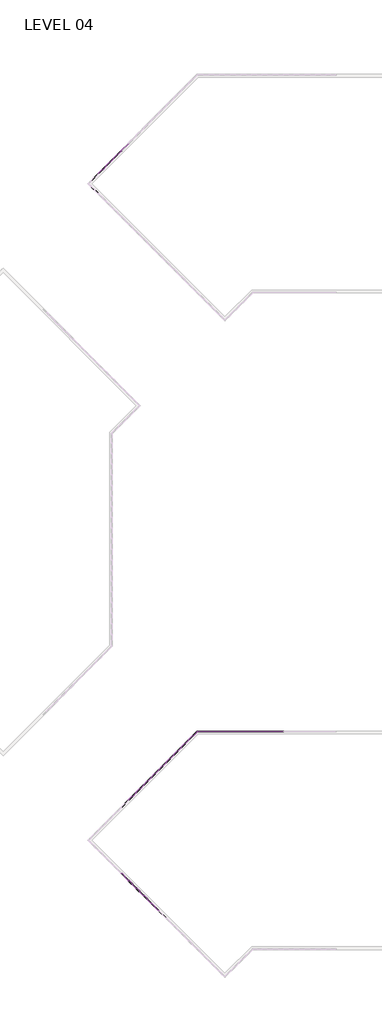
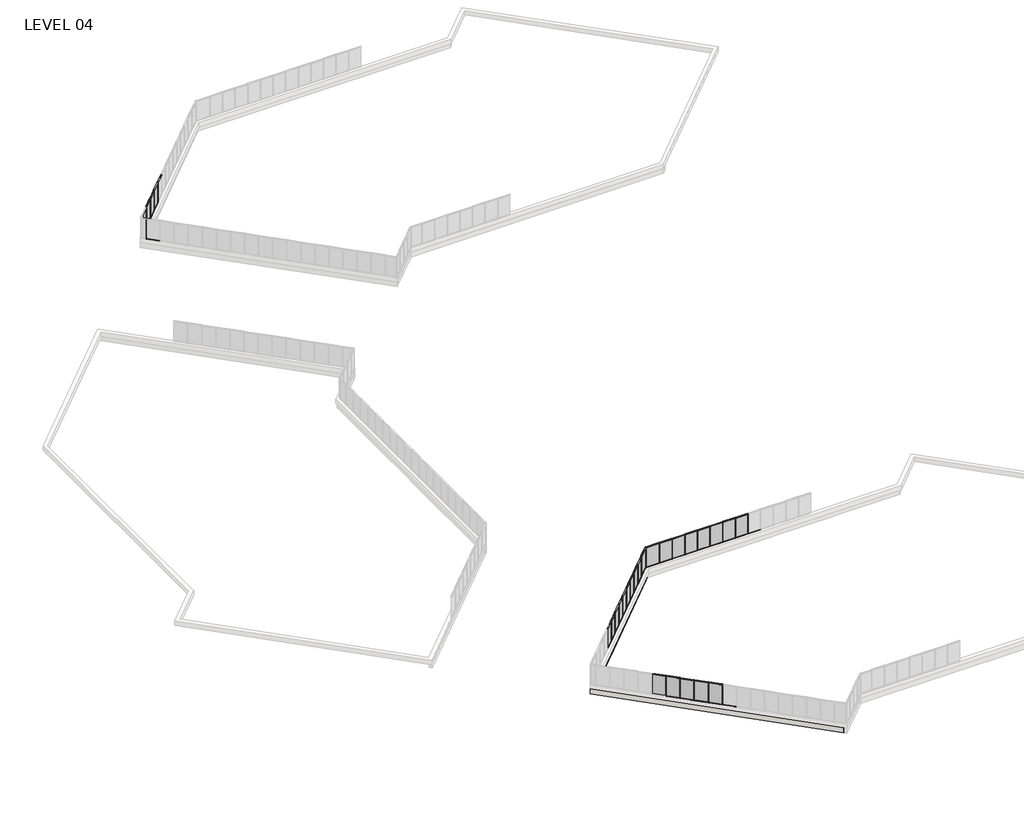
# One storey, part 7 of 17: 84 members, 27 plates, 2 walls.
"""IFC4 building model written with IfcOpenShell, lengths in millimetres."""

from ifc_helpers import new_model, si_unit, origin, place, context, project, spatial, faceted_brep, transform, mapped, element, save
from components import member_5247f267, member_e44af9ab, member_800970d4, member_1bd862b2, member_7ca0f77f, member_ed9c17d6, plate_67294edd, plate_048e4634, plate_aaac5d3d, plate_bbcbcabf, plate_e0fd5134, plate_db5d6751, plate_62af1d3c, plate_dca6a18a

model = new_model("IFC4")

# Units and contexts
model_context = context("Model", 3, world=origin())
ifc_project = project(units=[si_unit("LENGTHUNIT", "METRE", prefix="MILLI")], contexts=[model_context])

# Site, building, storey
site = spatial("IfcSite", under=ifc_project)
building = spatial("IfcBuilding", under=site)
storey = spatial("IfcBuildingStorey", under=building, Name="LEVEL 04", Elevation=12052.3)

# Members
placement = place(None, origin())
member_shape = member_5247f267(model_context)
element("IfcMember", 1, ObjectType="Rectangular Mullion : 2\" x 4.5\" rectangular", at=placement, inside=storey, context=model_context, shape_type="MappedRepresentation", body=[
    mapped(member_shape, transform((21469.35, 26080.1328721, 12052.3), x_axis=(0.0, 0.0, -1.0), y_axis=(0.0, -1.0, 0.0), z_axis=(-1.0, 0.0, 0.0))),
])
element("IfcMember", 2, ObjectType="Rectangular Mullion : 2\" x 4.5\" rectangular", at=placement, inside=storey, context=model_context, shape_type="MappedRepresentation", body=[
    mapped(member_shape, transform((22993.35, 26080.1328721, 12052.3), x_axis=(0.0, 0.0, -1.0), y_axis=(0.0, -1.0, 0.0), z_axis=(-1.0, 0.0, 0.0))),
])
element("IfcMember", 3, ObjectType="Rectangular Mullion : 2\" x 4.5\" rectangular", at=placement, inside=storey, context=model_context, shape_type="MappedRepresentation", body=[
    mapped(member_shape, transform((19945.35, 26080.1328721, 12052.3), x_axis=(0.0, 0.0, -1.0), y_axis=(0.0, -1.0, 0.0), z_axis=(-1.0, 0.0, 0.0))),
])
element("IfcMember", 4, ObjectType="Rectangular Mullion : 2\" x 4.5\" rectangular", at=placement, inside=storey, context=model_context, shape_type="MappedRepresentation", body=[
    mapped(member_shape, transform((18421.35, 26080.1328721, 12052.3), x_axis=(0.0, 0.0, -1.0), y_axis=(0.0, -1.0, 0.0), z_axis=(-1.0, 0.0, 0.0))),
])
element("IfcMember", 5, ObjectType="Rectangular Mullion : 2\" x 4.5\" rectangular", at=placement, inside=storey, context=model_context, shape_type="MappedRepresentation", body=[
    mapped(member_shape, transform((16897.35, 26080.1328721, 12052.3), x_axis=(0.0, 0.0, -1.0), y_axis=(0.0, -1.0, 0.0), z_axis=(-1.0, 0.0, 0.0))),
])
element("IfcMember", 6, ObjectType="Rectangular Mullion : 2\" x 4.5\" rectangular", at=placement, inside=storey, context=model_context, shape_type="MappedRepresentation", body=[
    mapped(member_shape, transform((15373.35, 26080.1328721, 12052.3), x_axis=(0.0, 0.0, -1.0), y_axis=(0.0, -1.0, 0.0), z_axis=(-1.0, 0.0, 0.0))),
])
element("IfcMember", 7, ObjectType="Rectangular Mullion : 2\" x 4.5\" rectangular", at=placement, inside=storey, context=model_context, shape_type="MappedRepresentation", body=[
    mapped(member_shape, transform((13849.35, 26080.1328721, 12052.3), x_axis=(0.0, 0.0, -1.0), y_axis=(0.0, -1.0, 0.0), z_axis=(-1.0, 0.0, 0.0))),
])
element("IfcMember", 8, ObjectType="Rectangular Mullion : 2\" x 4.5\" rectangular", at=placement, inside=storey, context=model_context, shape_type="MappedRepresentation", body=[
    mapped(member_shape, transform((12325.35, 26080.1328721, 12052.3), x_axis=(0.0, 0.0, -1.0), y_axis=(0.0, -1.0, 0.0), z_axis=(-1.0, 0.0, 0.0))),
])
element("IfcMember", 9, ObjectType="Rectangular Mullion : 2\" x 4.5\" rectangular", at=placement, inside=storey, context=model_context, shape_type="MappedRepresentation", body=[
    mapped(member_shape, transform((8320.1332875, 23790.0222953, 12052.3), x_axis=(0.0, 0.0, -1.0), y_axis=(-0.7071067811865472, 0.7071067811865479, 0.0), z_axis=(0.7071067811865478, 0.7071067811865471, 0.0))),
])
element("IfcMember", 10, ObjectType="Rectangular Mullion : 2\" x 4.5\" rectangular", at=placement, inside=storey, context=model_context, shape_type="MappedRepresentation", body=[
    mapped(member_shape, transform((7242.502553, 22712.3915608, 12052.3), x_axis=(0.0, 0.0, -1.0), y_axis=(-0.7071067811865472, 0.7071067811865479, 0.0), z_axis=(0.7071067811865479, 0.7071067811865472, 0.0))),
])
element("IfcMember", 11, ObjectType="Rectangular Mullion : 2\" x 4.5\" rectangular", at=placement, inside=storey, context=model_context, shape_type="MappedRepresentation", body=[
    mapped(member_shape, transform((6164.8718185, 21634.7608262, 12052.3), x_axis=(0.0, 0.0, -1.0), y_axis=(-0.7071067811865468, 0.7071067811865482, 0.0), z_axis=(0.7071067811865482, 0.7071067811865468, 0.0))),
])
element("IfcMember", 12, ObjectType="Rectangular Mullion : 2\" x 4.5\" rectangular", at=placement, inside=storey, context=model_context, shape_type="MappedRepresentation", body=[
    mapped(member_shape, transform((4009.6251512, 19479.5141589, 12052.3), x_axis=(0.0, 0.0, -1.0), y_axis=(-0.7071067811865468, 0.7071067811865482, 0.0), z_axis=(0.7071067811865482, 0.7071067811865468, 0.0))),
])
element("IfcMember", 13, ObjectType="Rectangular Mullion : 2\" x 4.5\" rectangular", at=placement, inside=storey, context=model_context, shape_type="MappedRepresentation", body=[
    mapped(member_shape, transform((2932.0092184, 18401.8982261, 12052.3), x_axis=(0.0, 0.0, -1.0), y_axis=(-0.7071067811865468, 0.7071067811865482, 0.0), z_axis=(0.7071067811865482, 0.7071067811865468, 0.0))),
])
element("IfcMember", 14, ObjectType="Rectangular Mullion : 2\" x 4.5\" rectangular", at=placement, inside=storey, context=model_context, shape_type="MappedRepresentation", body=[
    mapped(member_shape, transform((1854.3932855, 17324.2822933, 12052.3), x_axis=(0.0, 0.0, -1.0), y_axis=(-0.7071067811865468, 0.7071067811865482, 0.0), z_axis=(0.7071067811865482, 0.7071067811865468, 0.0))),
])
element("IfcMember", 15, ObjectType="Rectangular Mullion : 2\" x 4.5\" rectangular", at=placement, inside=storey, context=model_context, shape_type="MappedRepresentation", body=[
    mapped(member_shape, transform((776.7773527, 16246.6663605, 12052.3), x_axis=(0.0, 0.0, -1.0), y_axis=(-0.7071067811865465, 0.7071067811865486, 0.0), z_axis=(0.7071067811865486, 0.7071067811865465, 0.0))),
])
element("IfcMember", 16, ObjectType="Rectangular Mullion : 2\" x 4.5\" rectangular", at=placement, inside=storey, context=model_context, shape_type="MappedRepresentation", body=[
    mapped(member_shape, transform((9397.7640221, 24867.6530298, 12052.3), x_axis=(0.0, 0.0, -1.0), y_axis=(-0.7071067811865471, 0.7071067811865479, 0.0), z_axis=(0.7071067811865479, 0.7071067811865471, 0.0))),
])
element("IfcMember", 17, ObjectType="Rectangular Mullion : 2\" x 4.5\" rectangular", at=placement, inside=storey, context=model_context, shape_type="MappedRepresentation", body=[
    mapped(member_shape, transform((5087.2484848, 20557.1374926, 12052.3), x_axis=(0.0, 0.0, -1.0), y_axis=(-0.7071067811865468, 0.7071067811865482, 0.0), z_axis=(0.7071067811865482, 0.7071067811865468, 0.0))),
])
element("IfcMember", 18, ObjectType="Rectangular Mullion : 2\" x 4.5\" rectangular", at=placement, inside=storey, context=model_context, shape_type="MappedRepresentation", body=[
    mapped(member_shape, transform((812.6774444, 4705.5492921, 12052.3), x_axis=(0.0, 0.0, -1.0), y_axis=(-0.7071067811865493, -0.7071067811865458, 0.0), z_axis=(-0.7071067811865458, 0.7071067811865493, 0.0))),
])
element("IfcMember", 19, ObjectType="Rectangular Mullion : 2\" x 4.5\" rectangular", at=placement, inside=storey, context=model_context, shape_type="MappedRepresentation", body=[
    mapped(member_shape, transform((1890.2724444, 3627.9542921, 12052.3), x_axis=(0.0, 0.0, -1.0), y_axis=(-0.7071067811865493, -0.7071067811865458, 0.0), z_axis=(-0.7071067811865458, 0.7071067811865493, 0.0))),
])
element("IfcMember", 20, ObjectType="Rectangular Mullion : 2\" x 4.5\" rectangular", at=placement, inside=storey, context=model_context, shape_type="MappedRepresentation", body=[
    mapped(member_shape, transform((2967.8674444, 2550.3592921, 12052.3), x_axis=(0.0, 0.0, -1.0), y_axis=(-0.707106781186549, -0.7071067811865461, 0.0), z_axis=(-0.7071067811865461, 0.707106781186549, 0.0))),
])
element("IfcMember", 21, ObjectType="Rectangular Mullion : 2\" x 4.5\" rectangular", at=placement, inside=storey, context=model_context, shape_type="MappedRepresentation", body=[
    mapped(member_shape, transform((-3533.9094563, 105983.7989843, 12052.3), x_axis=(0.0, 0.0, -1.0), y_axis=(-0.7071067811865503, 0.7071067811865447, 0.0), z_axis=(0.7071067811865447, 0.7071067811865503, 0.0))),
])
element("IfcMember", 22, ObjectType="Rectangular Mullion : 2\" x 4.5\" rectangular", at=placement, inside=storey, context=model_context, shape_type="MappedRepresentation", body=[
    mapped(member_shape, transform((-301.0172527, 109216.6911879, 12052.3), x_axis=(0.0, 0.0, -1.0), y_axis=(-0.7071067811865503, 0.7071067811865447, 0.0), z_axis=(0.7071067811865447, 0.7071067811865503, 0.0))),
])
element("IfcMember", 23, ObjectType="Rectangular Mullion : 2\" x 4.5\" rectangular", at=placement, inside=storey, context=model_context, shape_type="MappedRepresentation", body=[
    mapped(member_shape, transform((-1378.6479872, 108139.0604533, 12052.3), x_axis=(0.0, 0.0, -1.0), y_axis=(-0.7071067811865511, 0.707106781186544, 0.0), z_axis=(0.707106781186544, 0.7071067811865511, 0.0))),
])
element("IfcMember", 24, ObjectType="Rectangular Mullion : 2\" x 4.5\" rectangular", at=placement, inside=storey, context=model_context, shape_type="MappedRepresentation", body=[
    mapped(member_shape, transform((-2456.2787218, 107061.4297188, 12052.3), x_axis=(0.0, 0.0, -1.0), y_axis=(-0.7071067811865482, 0.7071067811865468, 0.0), z_axis=(0.7071067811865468, 0.7071067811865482, 0.0))),
])
element("IfcMember", 25, ObjectType="Rectangular Mullion : 2\" x 4.5\" rectangular", at=placement, inside=storey, context=model_context, shape_type="MappedRepresentation", body=[
    mapped(member_shape, transform((-4575.4404937, 104141.486663, 12052.3), x_axis=(0.0, 0.0, -1.0), y_axis=(-0.7071067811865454, -0.7071067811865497, 0.0), z_axis=(-0.7071067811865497, 0.7071067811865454, 0.0))),
])
element("IfcMember", 26, ObjectType="Rectangular Mullion : 2\" x 4.5\" rectangular", at=placement, inside=storey, context=model_context, shape_type="MappedRepresentation", body=[
    mapped(member_shape, transform((21418.55, 26080.1328721, 14643.1), x_axis=(0.0, 0.0, 1.0), y_axis=(0.0, -1.0, 0.0), z_axis=(1.0, 0.0, 0.0))),
])
element("IfcMember", 27, ObjectType="Rectangular Mullion : 2\" x 4.5\" rectangular", at=placement, inside=storey, context=model_context, shape_type="MappedRepresentation", body=[
    mapped(member_shape, transform((22942.55, 26080.1328721, 14643.1), x_axis=(0.0, 0.0, 1.0), y_axis=(0.0, -1.0, 0.0), z_axis=(1.0, 0.0, 0.0))),
])
element("IfcMember", 28, ObjectType="Rectangular Mullion : 2\" x 4.5\" rectangular", at=placement, inside=storey, context=model_context, shape_type="MappedRepresentation", body=[
    mapped(member_shape, transform((19894.55, 26080.1328721, 14643.1), x_axis=(0.0, 0.0, 1.0), y_axis=(0.0, -1.0, 0.0), z_axis=(1.0, 0.0, 0.0))),
])
element("IfcMember", 29, ObjectType="Rectangular Mullion : 2\" x 4.5\" rectangular", at=placement, inside=storey, context=model_context, shape_type="MappedRepresentation", body=[
    mapped(member_shape, transform((18370.55, 26080.1328721, 14643.1), x_axis=(0.0, 0.0, 1.0), y_axis=(0.0, -1.0, 0.0), z_axis=(1.0, 0.0, 0.0))),
])
element("IfcMember", 30, ObjectType="Rectangular Mullion : 2\" x 4.5\" rectangular", at=placement, inside=storey, context=model_context, shape_type="MappedRepresentation", body=[
    mapped(member_shape, transform((16846.55, 26080.1328721, 14643.1), x_axis=(0.0, 0.0, 1.0), y_axis=(0.0, -1.0, 0.0), z_axis=(1.0, 0.0, 0.0))),
])
element("IfcMember", 31, ObjectType="Rectangular Mullion : 2\" x 4.5\" rectangular", at=placement, inside=storey, context=model_context, shape_type="MappedRepresentation", body=[
    mapped(member_shape, transform((15322.55, 26080.1328721, 14643.1), x_axis=(0.0, 0.0, 1.0), y_axis=(0.0, -1.0, 0.0), z_axis=(1.0, 0.0, 0.0))),
])
element("IfcMember", 32, ObjectType="Rectangular Mullion : 2\" x 4.5\" rectangular", at=placement, inside=storey, context=model_context, shape_type="MappedRepresentation", body=[
    mapped(member_shape, transform((13798.55, 26080.1328721, 14643.1), x_axis=(0.0, 0.0, 1.0), y_axis=(0.0, -1.0, 0.0), z_axis=(1.0, 0.0, 0.0))),
])
element("IfcMember", 33, ObjectType="Rectangular Mullion : 2\" x 4.5\" rectangular", at=placement, inside=storey, context=model_context, shape_type="MappedRepresentation", body=[
    mapped(member_shape, transform((8356.054312, 23825.9433198, 14643.1), x_axis=(0.0, 0.0, 1.0), y_axis=(-0.7071067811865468, 0.7071067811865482, 0.0), z_axis=(-0.7071067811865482, -0.7071067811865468, 0.0))),
])
element("IfcMember", 34, ObjectType="Rectangular Mullion : 2\" x 4.5\" rectangular", at=placement, inside=storey, context=model_context, shape_type="MappedRepresentation", body=[
    mapped(member_shape, transform((7278.4235775, 22748.3125852, 14643.1), x_axis=(0.0, 0.0, 1.0), y_axis=(-0.7071067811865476, 0.7071067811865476, 0.0), z_axis=(-0.7071067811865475, -0.7071067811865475, 0.0))),
])
element("IfcMember", 35, ObjectType="Rectangular Mullion : 2\" x 4.5\" rectangular", at=placement, inside=storey, context=model_context, shape_type="MappedRepresentation", body=[
    mapped(member_shape, transform((6200.792843, 21670.6818507, 14643.1), x_axis=(0.0, 0.0, 1.0), y_axis=(-0.7071067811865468, 0.7071067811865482, 0.0), z_axis=(-0.7071067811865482, -0.7071067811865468, 0.0))),
])
element("IfcMember", 36, ObjectType="Rectangular Mullion : 2\" x 4.5\" rectangular", at=placement, inside=storey, context=model_context, shape_type="MappedRepresentation", body=[
    mapped(member_shape, transform((4045.5461756, 19515.4351834, 14643.1), x_axis=(0.0, 0.0, 1.0), y_axis=(-0.7071067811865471, 0.7071067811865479, 0.0), z_axis=(-0.7071067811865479, -0.7071067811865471, 0.0))),
])
element("IfcMember", 37, ObjectType="Rectangular Mullion : 2\" x 4.5\" rectangular", at=placement, inside=storey, context=model_context, shape_type="MappedRepresentation", body=[
    mapped(member_shape, transform((2967.9302428, 18437.8192506, 14643.1), x_axis=(0.0, 0.0, 1.0), y_axis=(-0.7071067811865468, 0.7071067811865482, 0.0), z_axis=(-0.7071067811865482, -0.7071067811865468, 0.0))),
])
element("IfcMember", 38, ObjectType="Rectangular Mullion : 2\" x 4.5\" rectangular", at=placement, inside=storey, context=model_context, shape_type="MappedRepresentation", body=[
    mapped(member_shape, transform((1890.31431, 17360.2033178, 14643.1), x_axis=(0.0, 0.0, 1.0), y_axis=(-0.7071067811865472, 0.7071067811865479, 0.0), z_axis=(-0.7071067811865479, -0.7071067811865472, 0.0))),
])
element("IfcMember", 39, ObjectType="Rectangular Mullion : 2\" x 4.5\" rectangular", at=placement, inside=storey, context=model_context, shape_type="MappedRepresentation", body=[
    mapped(member_shape, transform((812.6983772, 16282.587385, 14643.1), x_axis=(0.0, 0.0, 1.0), y_axis=(-0.7071067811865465, 0.7071067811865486, 0.0), z_axis=(-0.7071067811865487, -0.7071067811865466, 0.0))),
])
element("IfcMember", 40, ObjectType="Rectangular Mullion : 2\" x 4.5\" rectangular", at=placement, inside=storey, context=model_context, shape_type="MappedRepresentation", body=[
    mapped(member_shape, transform((5123.1695093, 20593.058517, 14643.1), x_axis=(0.0, 0.0, 1.0), y_axis=(-0.7071067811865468, 0.7071067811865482, 0.0), z_axis=(-0.7071067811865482, -0.7071067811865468, 0.0))),
])
element("IfcMember", 41, ObjectType="Rectangular Mullion : 2\" x 4.5\" rectangular", at=placement, inside=storey, context=model_context, shape_type="MappedRepresentation", body=[
    mapped(member_shape, transform((776.7564199, 4741.4703165, 14643.1), x_axis=(0.0, 0.0, 1.0), y_axis=(-0.7071067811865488, -0.7071067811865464, 0.0), z_axis=(0.7071067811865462, -0.7071067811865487, 0.0))),
])
element("IfcMember", 42, ObjectType="Rectangular Mullion : 2\" x 4.5\" rectangular", at=placement, inside=storey, context=model_context, shape_type="MappedRepresentation", body=[
    mapped(member_shape, transform((1854.3514199, 3663.8753165, 14643.1), x_axis=(0.0, 0.0, 1.0), y_axis=(-0.7071067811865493, -0.7071067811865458, 0.0), z_axis=(0.7071067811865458, -0.7071067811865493, 0.0))),
])
element("IfcMember", 43, ObjectType="Rectangular Mullion : 2\" x 4.5\" rectangular", at=placement, inside=storey, context=model_context, shape_type="MappedRepresentation", body=[
    mapped(member_shape, transform((2931.9464199, 2586.2803165, 14643.1), x_axis=(0.0, 0.0, 1.0), y_axis=(-0.7071067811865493, -0.7071067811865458, 0.0), z_axis=(0.7071067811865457, -0.7071067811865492, 0.0))),
])
element("IfcMember", 44, ObjectType="Rectangular Mullion : 2\" x 4.5\" rectangular", at=placement, inside=storey, context=model_context, shape_type="MappedRepresentation", body=[
    mapped(member_shape, transform((4009.5414199, 1508.6853165, 14643.1), x_axis=(0.0, 0.0, 1.0), y_axis=(-0.7071067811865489, -0.7071067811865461, 0.0), z_axis=(0.7071067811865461, -0.7071067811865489, 0.0))),
])
element("IfcMember", 45, ObjectType="Rectangular Mullion : 2\" x 4.5\" rectangular", at=placement, inside=storey, context=model_context, shape_type="MappedRepresentation", body=[
    mapped(member_shape, transform((-3497.9884318, 106019.7200088, 14643.1), x_axis=(0.0, 0.0, 1.0), y_axis=(-0.7071067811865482, 0.7071067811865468, 0.0), z_axis=(-0.7071067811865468, -0.7071067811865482, 0.0))),
])
element("IfcMember", 46, ObjectType="Rectangular Mullion : 2\" x 4.5\" rectangular", at=placement, inside=storey, context=model_context, shape_type="MappedRepresentation", body=[
    mapped(member_shape, transform((-265.0962282, 109252.6122123, 14643.1), x_axis=(0.0, 0.0, 1.0), y_axis=(-0.7071067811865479, 0.7071067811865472, 0.0), z_axis=(-0.7071067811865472, -0.7071067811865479, 0.0))),
])
element("IfcMember", 47, ObjectType="Rectangular Mullion : 2\" x 4.5\" rectangular", at=placement, inside=storey, context=model_context, shape_type="MappedRepresentation", body=[
    mapped(member_shape, transform((-1342.7269627, 108174.9814778, 14643.1), x_axis=(0.0, 0.0, 1.0), y_axis=(-0.7071067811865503, 0.7071067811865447, 0.0), z_axis=(-0.7071067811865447, -0.7071067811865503, 0.0))),
])
element("IfcMember", 48, ObjectType="Rectangular Mullion : 2\" x 4.5\" rectangular", at=placement, inside=storey, context=model_context, shape_type="MappedRepresentation", body=[
    mapped(member_shape, transform((-2420.3576973, 107097.3507433, 14643.1), x_axis=(0.0, 0.0, 1.0), y_axis=(-0.7071067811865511, 0.707106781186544, 0.0), z_axis=(-0.707106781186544, -0.7071067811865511, 0.0))),
])
member_2_shape = member_e44af9ab(model_context)
element("IfcMember", 49, ObjectType="Rectangular Mullion : 2\" x 4.5\" rectangular", at=placement, inside=storey, context=model_context, shape_type="MappedRepresentation", body=[
    mapped(member_2_shape, transform((21443.95, 26080.1328721, 12052.3), x_axis=(1.0, 0.0, 0.0), y_axis=(0.0, -1.0, 0.0), z_axis=(0.0, 0.0, -1.0))),
])
element("IfcMember", 50, ObjectType="Rectangular Mullion : 2\" x 4.5\" rectangular", at=placement, inside=storey, context=model_context, shape_type="MappedRepresentation", body=[
    mapped(member_2_shape, transform((22967.95, 26080.1328721, 12052.3), x_axis=(1.0, 0.0, 0.0), y_axis=(0.0, -1.0, 0.0), z_axis=(0.0, 0.0, -1.0))),
])
element("IfcMember", 51, ObjectType="Rectangular Mullion : 2\" x 4.5\" rectangular", at=placement, inside=storey, context=model_context, shape_type="MappedRepresentation", body=[
    mapped(member_2_shape, transform((19919.95, 26080.1328721, 12052.3), x_axis=(1.0, 0.0, 0.0), y_axis=(0.0, -1.0, 0.0), z_axis=(0.0, 0.0, -1.0))),
])
element("IfcMember", 52, ObjectType="Rectangular Mullion : 2\" x 4.5\" rectangular", at=placement, inside=storey, context=model_context, shape_type="MappedRepresentation", body=[
    mapped(member_2_shape, transform((18395.95, 26080.1328721, 12052.3), x_axis=(1.0, 0.0, 0.0), y_axis=(0.0, -1.0, 0.0), z_axis=(0.0, 0.0, -1.0))),
])
element("IfcMember", 53, ObjectType="Rectangular Mullion : 2\" x 4.5\" rectangular", at=placement, inside=storey, context=model_context, shape_type="MappedRepresentation", body=[
    mapped(member_2_shape, transform((16871.95, 26080.1328721, 12052.3), x_axis=(1.0, 0.0, 0.0), y_axis=(0.0, -1.0, 0.0), z_axis=(0.0, 0.0, -1.0))),
])
element("IfcMember", 54, ObjectType="Rectangular Mullion : 2\" x 4.5\" rectangular", at=placement, inside=storey, context=model_context, shape_type="MappedRepresentation", body=[
    mapped(member_2_shape, transform((15347.95, 26080.1328721, 12052.3), x_axis=(1.0, 0.0, 0.0), y_axis=(0.0, -1.0, 0.0), z_axis=(0.0, 0.0, -1.0))),
])
element("IfcMember", 55, ObjectType="Rectangular Mullion : 2\" x 4.5\" rectangular", at=placement, inside=storey, context=model_context, shape_type="MappedRepresentation", body=[
    mapped(member_2_shape, transform((13823.95, 26080.1328721, 12052.3), x_axis=(1.0, 0.0, 0.0), y_axis=(0.0, -1.0, 0.0), z_axis=(0.0, 0.0, -1.0))),
])
element("IfcMember", 56, ObjectType="Rectangular Mullion : 2\" x 4.5\" rectangular", at=placement, inside=storey, context=model_context, shape_type="MappedRepresentation", body=[
    mapped(member_2_shape, transform((12299.95, 26080.1328721, 12052.3), x_axis=(1.0, 0.0, 0.0), y_axis=(0.0, -1.0, 0.0), z_axis=(0.0, 0.0, -1.0))),
])
element("IfcMember", 57, ObjectType="Rectangular Mullion : 2\" x 4.5\" rectangular", at=placement, inside=storey, context=model_context, shape_type="MappedRepresentation", body=[
    mapped(member_2_shape, transform((8338.0937998, 23807.9828075, 12052.3), x_axis=(-0.7071067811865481, -0.7071067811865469, 0.0), y_axis=(-0.7071067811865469, 0.7071067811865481, 0.0), z_axis=(0.0, 0.0, -1.0))),
])
element("IfcMember", 58, ObjectType="Rectangular Mullion : 2\" x 4.5\" rectangular", at=placement, inside=storey, context=model_context, shape_type="MappedRepresentation", body=[
    mapped(member_2_shape, transform((7260.4630653, 22730.352073, 12052.3), x_axis=(-0.7071067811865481, -0.7071067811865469, 0.0), y_axis=(-0.7071067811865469, 0.7071067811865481, 0.0), z_axis=(0.0, 0.0, -1.0))),
])
element("IfcMember", 59, ObjectType="Rectangular Mullion : 2\" x 4.5\" rectangular", at=placement, inside=storey, context=model_context, shape_type="MappedRepresentation", body=[
    mapped(member_2_shape, transform((6182.8323307, 21652.7213385, 12052.3), x_axis=(-0.7071067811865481, -0.7071067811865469, 0.0), y_axis=(-0.7071067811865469, 0.7071067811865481, 0.0), z_axis=(0.0, 0.0, -1.0))),
])
element("IfcMember", 60, ObjectType="Rectangular Mullion : 2\" x 4.5\" rectangular", at=placement, inside=storey, context=model_context, shape_type="MappedRepresentation", body=[
    mapped(member_2_shape, transform((4027.5856634, 19497.4746711, 12052.3), x_axis=(-0.7071067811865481, -0.7071067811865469, 0.0), y_axis=(-0.7071067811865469, 0.7071067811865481, 0.0), z_axis=(0.0, 0.0, -1.0))),
])
element("IfcMember", 61, ObjectType="Rectangular Mullion : 2\" x 4.5\" rectangular", at=placement, inside=storey, context=model_context, shape_type="MappedRepresentation", body=[
    mapped(member_2_shape, transform((2949.9697306, 18419.8587383, 12052.3), x_axis=(-0.7071067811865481, -0.7071067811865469, 0.0), y_axis=(-0.7071067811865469, 0.7071067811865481, 0.0), z_axis=(0.0, 0.0, -1.0))),
])
element("IfcMember", 62, ObjectType="Rectangular Mullion : 2\" x 4.5\" rectangular", at=placement, inside=storey, context=model_context, shape_type="MappedRepresentation", body=[
    mapped(member_2_shape, transform((1872.3537978, 17342.2428055, 12052.3), x_axis=(-0.7071067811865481, -0.7071067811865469, 0.0), y_axis=(-0.7071067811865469, 0.7071067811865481, 0.0), z_axis=(0.0, 0.0, -1.0))),
])
element("IfcMember", 63, ObjectType="Rectangular Mullion : 2\" x 4.5\" rectangular", at=placement, inside=storey, context=model_context, shape_type="MappedRepresentation", body=[
    mapped(member_2_shape, transform((794.737865, 16264.6268727, 12052.3), x_axis=(-0.7071067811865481, -0.7071067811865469, 0.0), y_axis=(-0.7071067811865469, 0.7071067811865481, 0.0), z_axis=(0.0, 0.0, -1.0))),
])
element("IfcMember", 64, ObjectType="Rectangular Mullion : 2\" x 4.5\" rectangular", at=placement, inside=storey, context=model_context, shape_type="MappedRepresentation", body=[
    mapped(member_2_shape, transform((9415.7245343, 24885.6135421, 12052.3), x_axis=(-0.7071067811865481, -0.7071067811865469, 0.0), y_axis=(-0.7071067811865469, 0.7071067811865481, 0.0), z_axis=(0.0, 0.0, -1.0))),
])
element("IfcMember", 65, ObjectType="Rectangular Mullion : 2\" x 4.5\" rectangular", at=placement, inside=storey, context=model_context, shape_type="MappedRepresentation", body=[
    mapped(member_2_shape, transform((5105.2089971, 20575.0980048, 12052.3), x_axis=(-0.7071067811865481, -0.7071067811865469, 0.0), y_axis=(-0.7071067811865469, 0.7071067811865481, 0.0), z_axis=(0.0, 0.0, -1.0))),
])
element("IfcMember", 66, ObjectType="Rectangular Mullion : 2\" x 4.5\" rectangular", at=placement, inside=storey, context=model_context, shape_type="MappedRepresentation", body=[
    mapped(member_2_shape, transform((794.7169322, 4723.5098043, 12052.3), x_axis=(0.7071067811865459, -0.7071067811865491, 0.0), y_axis=(-0.7071067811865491, -0.7071067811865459, 0.0), z_axis=(0.0, 0.0, -1.0))),
])
element("IfcMember", 67, ObjectType="Rectangular Mullion : 2\" x 4.5\" rectangular", at=placement, inside=storey, context=model_context, shape_type="MappedRepresentation", body=[
    mapped(member_2_shape, transform((1872.3119322, 3645.9148043, 12052.3), x_axis=(0.7071067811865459, -0.7071067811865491, 0.0), y_axis=(-0.7071067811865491, -0.7071067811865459, 0.0), z_axis=(0.0, 0.0, -1.0))),
])
element("IfcMember", 68, ObjectType="Rectangular Mullion : 2\" x 4.5\" rectangular", at=placement, inside=storey, context=model_context, shape_type="MappedRepresentation", body=[
    mapped(member_2_shape, transform((2949.9069322, 2568.3198043, 12052.3), x_axis=(0.7071067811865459, -0.7071067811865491, 0.0), y_axis=(-0.7071067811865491, -0.7071067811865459, 0.0), z_axis=(0.0, 0.0, -1.0))),
])
element("IfcMember", 69, ObjectType="Rectangular Mullion : 2\" x 4.5\" rectangular", at=placement, inside=storey, context=model_context, shape_type="MappedRepresentation", body=[
    mapped(member_2_shape, transform((4027.5019322, 1490.7248043, 12052.3), x_axis=(0.7071067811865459, -0.7071067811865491, 0.0), y_axis=(-0.7071067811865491, -0.7071067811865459, 0.0), z_axis=(0.0, 0.0, -1.0))),
])
element("IfcMember", 70, ObjectType="Rectangular Mullion : 2\" x 4.5\" rectangular", at=placement, inside=storey, context=model_context, shape_type="MappedRepresentation", body=[
    mapped(member_2_shape, transform((5102.1211371, 416.1055994, 12052.3), x_axis=(0.7071067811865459, -0.7071067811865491, 0.0), y_axis=(-0.7071067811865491, -0.7071067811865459, 0.0), z_axis=(0.0, 0.0, -1.0))),
])
element("IfcMember", 71, ObjectType="Rectangular Mullion : 2\" x 4.5\" rectangular", at=placement, inside=storey, context=model_context, shape_type="MappedRepresentation", body=[
    mapped(member_2_shape, transform((-3515.948944, 106001.7594965, 12052.3), x_axis=(-0.7071067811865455, -0.7071067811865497, 0.0), y_axis=(-0.7071067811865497, 0.7071067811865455, 0.0), z_axis=(0.0, 0.0, -1.0))),
])
element("IfcMember", 72, ObjectType="Rectangular Mullion : 2\" x 4.5\" rectangular", at=placement, inside=storey, context=model_context, shape_type="MappedRepresentation", body=[
    mapped(member_2_shape, transform((-283.0567405, 109234.6517001, 12052.3), x_axis=(-0.7071067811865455, -0.7071067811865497, 0.0), y_axis=(-0.7071067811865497, 0.7071067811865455, 0.0), z_axis=(0.0, 0.0, -1.0))),
])
element("IfcMember", 73, ObjectType="Rectangular Mullion : 2\" x 4.5\" rectangular", at=placement, inside=storey, context=model_context, shape_type="MappedRepresentation", body=[
    mapped(member_2_shape, transform((-1360.687475, 108157.0209656, 12052.3), x_axis=(-0.7071067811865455, -0.7071067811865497, 0.0), y_axis=(-0.7071067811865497, 0.7071067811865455, 0.0), z_axis=(0.0, 0.0, -1.0))),
])
element("IfcMember", 74, ObjectType="Rectangular Mullion : 2\" x 4.5\" rectangular", at=placement, inside=storey, context=model_context, shape_type="MappedRepresentation", body=[
    mapped(member_2_shape, transform((-2438.3182095, 107079.390231, 12052.3), x_axis=(-0.7071067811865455, -0.7071067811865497, 0.0), y_axis=(-0.7071067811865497, 0.7071067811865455, 0.0), z_axis=(0.0, 0.0, -1.0))),
])
element("IfcMember", 75, ObjectType="Rectangular Mullion : 2\" x 4.5\" rectangular", at=placement, inside=storey, context=model_context, shape_type="MappedRepresentation", body=[
    mapped(member_2_shape, transform((-4593.4010059, 104159.4471752, 12052.3), x_axis=(0.7071067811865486, -0.7071067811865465, 0.0), y_axis=(-0.7071067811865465, -0.7071067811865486, 0.0), z_axis=(0.0, 0.0, -1.0))),
])
member_3_shape = member_800970d4(model_context)
element("IfcMember", 76, ObjectType="Rectangular Mullion : 2\" x 4.5\" rectangular", at=placement, inside=storey, context=model_context, shape_type="MappedRepresentation", body=[
    mapped(member_3_shape, transform((10610.2438644, 26080.1328721, 14643.1), x_axis=(-1.0, 0.0, 0.0), y_axis=(0.0, -1.0, 0.0), z_axis=(0.0, 0.0, 1.0))),
])
element("IfcMember", 77, ObjectType="Rectangular Mullion : 2\" x 4.5\" rectangular", at=placement, inside=storey, context=model_context, shape_type="MappedRepresentation", body=[
    mapped(member_3_shape, transform((10610.2438644, 26080.1328721, 14643.1), x_axis=(0.7071067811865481, 0.7071067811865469, 0.0), y_axis=(-0.7071067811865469, 0.7071067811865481, 0.0), z_axis=(0.0, 0.0, 1.0))),
])
member_4_shape = member_1bd862b2(model_context)
element("IfcMember", 78, ObjectType="Rectangular Mullion : 2\" x 4.5\" rectangular", at=placement, inside=storey, context=model_context, shape_type="MappedRepresentation", body=[
    mapped(member_4_shape, transform((12274.55, 26080.1328721, 14643.1), x_axis=(0.0, 0.0, 1.0), y_axis=(0.0, -1.0, 0.0), z_axis=(1.0, 0.0, 0.0))),
])
element("IfcMember", 79, ObjectType="Rectangular Mullion : 2\" x 4.5\" rectangular", at=placement, inside=storey, context=model_context, shape_type="MappedRepresentation", body=[
    mapped(member_4_shape, transform((10661.0438644, 26080.1328721, 12052.3), x_axis=(0.0, 0.0, -1.0), y_axis=(0.0, -1.0, 0.0), z_axis=(-1.0, 0.0, 0.0))),
])
member_5_shape = member_7ca0f77f(model_context)
element("IfcMember", 80, ObjectType="Rectangular Mullion : 2\" x 4.5\" rectangular", at=placement, inside=storey, context=model_context, shape_type="MappedRepresentation", body=[
    mapped(member_5_shape, transform((9433.6850466, 24903.5740543, 14643.1), x_axis=(0.0, 0.0, 1.0), y_axis=(-0.7071067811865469, 0.7071067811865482, 0.0), z_axis=(-0.7071067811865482, -0.7071067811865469, 0.0))),
])
element("IfcMember", 81, ObjectType="Rectangular Mullion : 2\" x 4.5\" rectangular", at=placement, inside=storey, context=model_context, shape_type="MappedRepresentation", body=[
    mapped(member_5_shape, transform((10574.3228399, 26044.2118476, 12052.3), x_axis=(0.0, 0.0, -1.0), y_axis=(-0.7071067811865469, 0.7071067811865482, 0.0), z_axis=(0.7071067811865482, 0.7071067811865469, 0.0))),
])
member_6_shape = member_ed9c17d6(model_context)
element("IfcMember", 82, ObjectType="Rectangular Mullion : 2\" x 4.5\" rectangular", at=placement, inside=storey, context=model_context, shape_type="MappedRepresentation", body=[
    mapped(member_6_shape, transform((5084.1606248, 434.0661116, 14643.1), x_axis=(0.0, 0.0, 1.0), y_axis=(-0.7071067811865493, -0.7071067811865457, 0.0), z_axis=(0.7071067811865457, -0.7071067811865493, 0.0))),
])
element("IfcMember", 83, ObjectType="Rectangular Mullion : 2\" x 4.5\" rectangular", at=placement, inside=storey, context=model_context, shape_type="MappedRepresentation", body=[
    mapped(member_6_shape, transform((4045.4624444, 1472.7642921, 12052.3), x_axis=(0.0, 0.0, -1.0), y_axis=(-0.7071067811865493, -0.7071067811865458, 0.0), z_axis=(-0.7071067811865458, 0.7071067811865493, 0.0))),
])
element("IfcMember", 84, ObjectType="Rectangular Mullion : 2\" x 4.5\" rectangular", at=placement, inside=storey, context=model_context, shape_type="MappedRepresentation", body=[
    mapped(member_6_shape, transform((5120.0816493, 398.1450872, 12052.3), x_axis=(0.0, 0.0, -1.0), y_axis=(-0.7071067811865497, -0.7071067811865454, 0.0), z_axis=(-0.7071067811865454, 0.7071067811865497, 0.0))),
])

# Plates
plate_shape = plate_67294edd(model_context)
element("IfcPlate", 85, ObjectType="System Panel : 1/4\" Glass", at=placement, inside=storey, context=model_context, shape_type="MappedRepresentation", body=[
    mapped(plate_shape, transform((22205.95, 26080.1328721, 12103.1), x_axis=(1.0, 0.0, 0.0), y_axis=(0.0, 1.0, 0.0), z_axis=(0.0, 0.0, 1.0))),
])
element("IfcPlate", 86, ObjectType="System Panel : 1/4\" Glass", at=placement, inside=storey, context=model_context, shape_type="MappedRepresentation", body=[
    mapped(plate_shape, transform((20681.95, 26080.1328721, 12103.1), x_axis=(1.0, 0.0, 0.0), y_axis=(0.0, 1.0, 0.0), z_axis=(0.0, 0.0, 1.0))),
])
element("IfcPlate", 87, ObjectType="System Panel : 1/4\" Glass", at=placement, inside=storey, context=model_context, shape_type="MappedRepresentation", body=[
    mapped(plate_shape, transform((19157.95, 26080.1328721, 12103.1), x_axis=(1.0, 0.0, 0.0), y_axis=(0.0, 1.0, 0.0), z_axis=(0.0, 0.0, 1.0))),
])
element("IfcPlate", 88, ObjectType="System Panel : 1/4\" Glass", at=placement, inside=storey, context=model_context, shape_type="MappedRepresentation", body=[
    mapped(plate_shape, transform((17633.95, 26080.1328721, 12103.1), x_axis=(1.0, 0.0, 0.0), y_axis=(0.0, 1.0, 0.0), z_axis=(0.0, 0.0, 1.0))),
])
element("IfcPlate", 89, ObjectType="System Panel : 1/4\" Glass", at=placement, inside=storey, context=model_context, shape_type="MappedRepresentation", body=[
    mapped(plate_shape, transform((16109.95, 26080.1328721, 12103.1), x_axis=(1.0, 0.0, 0.0), y_axis=(0.0, 1.0, 0.0), z_axis=(0.0, 0.0, 1.0))),
])
element("IfcPlate", 90, ObjectType="System Panel : 1/4\" Glass", at=placement, inside=storey, context=model_context, shape_type="MappedRepresentation", body=[
    mapped(plate_shape, transform((14585.95, 26080.1328721, 12103.1), x_axis=(1.0, 0.0, 0.0), y_axis=(0.0, 1.0, 0.0), z_axis=(0.0, 0.0, 1.0))),
])
element("IfcPlate", 91, ObjectType="System Panel : 1/4\" Glass", at=placement, inside=storey, context=model_context, shape_type="MappedRepresentation", body=[
    mapped(plate_shape, transform((13061.95, 26080.1328721, 12103.1), x_axis=(1.0, 0.0, 0.0), y_axis=(0.0, 1.0, 0.0), z_axis=(0.0, 0.0, 1.0))),
])
element("IfcPlate", 92, ObjectType="System Panel : 1/4\" Glass", at=placement, inside=storey, context=model_context, shape_type="MappedRepresentation", body=[
    mapped(plate_shape, transform((7799.2784325, 23269.1674403, 12103.1), x_axis=(-0.7071067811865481, -0.7071067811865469, 0.0), y_axis=(0.7071067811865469, -0.7071067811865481, 0.0), z_axis=(0.0, 0.0, 1.0))),
])
element("IfcPlate", 93, ObjectType="System Panel : 1/4\" Glass", at=placement, inside=storey, context=model_context, shape_type="MappedRepresentation", body=[
    mapped(plate_shape, transform((6721.647698, 22191.5367057, 12103.1), x_axis=(-0.7071067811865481, -0.7071067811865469, 0.0), y_axis=(0.7071067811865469, -0.7071067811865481, 0.0), z_axis=(0.0, 0.0, 1.0))),
])
element("IfcPlate", 94, ObjectType="System Panel : 1/4\" Glass", at=placement, inside=storey, context=model_context, shape_type="MappedRepresentation", body=[
    mapped(plate_shape, transform((8876.909167, 24346.7981748, 12103.1), x_axis=(-0.7071067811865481, -0.7071067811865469, 0.0), y_axis=(0.7071067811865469, -0.7071067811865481, 0.0), z_axis=(0.0, 0.0, 1.0))),
])
element("IfcPlate", 95, ObjectType="System Panel : 1/4\" Glass", at=placement, inside=storey, context=model_context, shape_type="MappedRepresentation", body=[
    mapped(plate_shape, transform((-4054.7643113, 105462.9441292, 12103.1), x_axis=(-0.7071067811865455, -0.7071067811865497, 0.0), y_axis=(0.7071067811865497, -0.7071067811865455, 0.0), z_axis=(0.0, 0.0, 1.0))),
])
element("IfcPlate", 96, ObjectType="System Panel : 1/4\" Glass", at=placement, inside=storey, context=model_context, shape_type="MappedRepresentation", body=[
    mapped(plate_shape, transform((-821.8721077, 108695.8363328, 12103.1), x_axis=(-0.7071067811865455, -0.7071067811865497, 0.0), y_axis=(0.7071067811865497, -0.7071067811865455, 0.0), z_axis=(0.0, 0.0, 1.0))),
])
element("IfcPlate", 97, ObjectType="System Panel : 1/4\" Glass", at=placement, inside=storey, context=model_context, shape_type="MappedRepresentation", body=[
    mapped(plate_shape, transform((-1899.5028422, 107618.2055983, 12103.1), x_axis=(-0.7071067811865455, -0.7071067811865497, 0.0), y_axis=(0.7071067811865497, -0.7071067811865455, 0.0), z_axis=(0.0, 0.0, 1.0))),
])
element("IfcPlate", 98, ObjectType="System Panel : 1/4\" Glass", at=placement, inside=storey, context=model_context, shape_type="MappedRepresentation", body=[
    mapped(plate_shape, transform((-2977.1335768, 106540.5748638, 12103.1), x_axis=(-0.7071067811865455, -0.7071067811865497, 0.0), y_axis=(0.7071067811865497, -0.7071067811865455, 0.0), z_axis=(0.0, 0.0, 1.0))),
])
plate_2_shape = plate_048e4634(model_context)
element("IfcPlate", 99, ObjectType="System Panel : 1/4\" Glass", at=placement, inside=storey, context=model_context, shape_type="MappedRepresentation", body=[
    mapped(plate_2_shape, transform((1333.5144322, 4184.7123043, 12103.1), x_axis=(0.7071067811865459, -0.7071067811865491, 0.0), y_axis=(0.7071067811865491, 0.7071067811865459, 0.0), z_axis=(0.0, 0.0, 1.0))),
])
element("IfcPlate", 100, ObjectType="System Panel : 1/4\" Glass", at=placement, inside=storey, context=model_context, shape_type="MappedRepresentation", body=[
    mapped(plate_2_shape, transform((2411.1094322, 3107.1173043, 12103.1), x_axis=(0.7071067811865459, -0.7071067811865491, 0.0), y_axis=(0.7071067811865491, 0.7071067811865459, 0.0), z_axis=(0.0, 0.0, 1.0))),
])
element("IfcPlate", 101, ObjectType="System Panel : 1/4\" Glass", at=placement, inside=storey, context=model_context, shape_type="MappedRepresentation", body=[
    mapped(plate_2_shape, transform((3488.7044322, 2029.5223043, 12103.1), x_axis=(0.7071067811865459, -0.7071067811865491, 0.0), y_axis=(0.7071067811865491, 0.7071067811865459, 0.0), z_axis=(0.0, 0.0, 1.0))),
])
plate_3_shape = plate_aaac5d3d(model_context)
element("IfcPlate", 102, ObjectType="System Panel : 1/4\" Glass", at=placement, inside=storey, context=model_context, shape_type="MappedRepresentation", body=[
    mapped(plate_3_shape, transform((3488.777697, 18958.6667047, 12103.1), x_axis=(-0.7071067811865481, -0.7071067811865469, 0.0), y_axis=(0.7071067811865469, -0.7071067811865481, 0.0), z_axis=(0.0, 0.0, 1.0))),
])
element("IfcPlate", 103, ObjectType="System Panel : 1/4\" Glass", at=placement, inside=storey, context=model_context, shape_type="MappedRepresentation", body=[
    mapped(plate_3_shape, transform((2411.1617642, 17881.0507719, 12103.1), x_axis=(-0.7071067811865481, -0.7071067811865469, 0.0), y_axis=(0.7071067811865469, -0.7071067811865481, 0.0), z_axis=(0.0, 0.0, 1.0))),
])
element("IfcPlate", 104, ObjectType="System Panel : 1/4\" Glass", at=placement, inside=storey, context=model_context, shape_type="MappedRepresentation", body=[
    mapped(plate_3_shape, transform((1333.5458314, 16803.4348391, 12103.1), x_axis=(-0.7071067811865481, -0.7071067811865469, 0.0), y_axis=(0.7071067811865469, -0.7071067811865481, 0.0), z_axis=(0.0, 0.0, 1.0))),
])
plate_4_shape = plate_bbcbcabf(model_context)
element("IfcPlate", 105, ObjectType="System Panel : 1/4\" Glass", at=placement, inside=storey, context=model_context, shape_type="MappedRepresentation", body=[
    mapped(plate_4_shape, transform((11467.7969322, 26080.1328721, 12103.1), x_axis=(1.0, 0.0, 0.0), y_axis=(0.0, 1.0, 0.0), z_axis=(0.0, 0.0, 1.0))),
])
plate_5_shape = plate_e0fd5134(model_context)
element("IfcPlate", 106, ObjectType="System Panel : 1/4\" Glass", at=placement, inside=storey, context=model_context, shape_type="MappedRepresentation", body=[
    mapped(plate_5_shape, transform((5644.0206639, 21113.9096716, 12103.1), x_axis=(-0.7071067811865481, -0.7071067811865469, 0.0), y_axis=(0.7071067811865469, -0.7071067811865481, 0.0), z_axis=(0.0, 0.0, 1.0))),
])
element("IfcPlate", 107, ObjectType="System Panel : 1/4\" Glass", at=placement, inside=storey, context=model_context, shape_type="MappedRepresentation", body=[
    mapped(plate_5_shape, transform((255.9261982, 15725.8152059, 12103.1), x_axis=(-0.7071067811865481, -0.7071067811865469, 0.0), y_axis=(0.7071067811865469, -0.7071067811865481, 0.0), z_axis=(0.0, 0.0, 1.0))),
])
element("IfcPlate", 108, ObjectType="System Panel : 1/4\" Glass", at=placement, inside=storey, context=model_context, shape_type="MappedRepresentation", body=[
    mapped(plate_5_shape, transform((4566.3973302, 20036.286338, 12103.1), x_axis=(-0.7071067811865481, -0.7071067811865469, 0.0), y_axis=(0.7071067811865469, -0.7071067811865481, 0.0), z_axis=(0.0, 0.0, 1.0))),
])
plate_6_shape = plate_db5d6751(model_context)
element("IfcPlate", 109, ObjectType="System Panel : 1/4\" Glass", at=placement, inside=storey, context=model_context, shape_type="MappedRepresentation", body=[
    mapped(plate_6_shape, transform((10004.0039432, 25473.892951, 12103.1), x_axis=(-0.7071067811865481, -0.7071067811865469, 0.0), y_axis=(0.7071067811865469, -0.7071067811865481, 0.0), z_axis=(0.0, 0.0, 1.0))),
])
plate_7_shape = plate_62af1d3c(model_context)
element("IfcPlate", 110, ObjectType="System Panel : 1/4\" Glass", at=placement, inside=storey, context=model_context, shape_type="MappedRepresentation", body=[
    mapped(plate_7_shape, transform((255.9104986, 5262.3162379, 12103.1), x_axis=(0.7071067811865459, -0.7071067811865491, 0.0), y_axis=(0.7071067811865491, 0.7071067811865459, 0.0), z_axis=(0.0, 0.0, 1.0))),
])
plate_8_shape = plate_dca6a18a(model_context)
element("IfcPlate", 111, ObjectType="System Panel : 1/4\" Glass", at=placement, inside=storey, context=model_context, shape_type="MappedRepresentation", body=[
    mapped(plate_8_shape, transform((4564.8115346, 953.4152019, 12103.1), x_axis=(0.7071067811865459, -0.7071067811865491, 0.0), y_axis=(0.7071067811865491, 0.7071067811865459, 0.0), z_axis=(0.0, 0.0, 1.0))),
])

# Walls
element("IfcWall", 112, ObjectType="01-CONCRETE-12", at=placement, inside=storey, context=model_context, shape_type="Brep", body=[
    faceted_brep([(14585.95, -8717.4932748, 10871.2), (-4625.6011469, 10494.0578721, 10871.2), (-4841.1272938, 10709.584019, 10871.2), (-4841.1272938, 10709.584019, 11493.5), (-4625.6011469, 10494.0578721, 11493.5), (14585.95, -8717.4932748, 11493.5), (14370.4238531, -8933.0194217, 10871.2), (14370.4238531, -8933.0194217, 11493.5), (-5056.6534407, 10494.0578721, 11493.5), (-5056.6534407, 10494.0578721, 10871.2)], [[[0, 1, 2, 3, 4, 5]], [[6, 7, 8, 9]], [[2, 1, 0, 6, 9]], [[5, 4, 3, 8, 7]], [[0, 5, 7, 6]], [[3, 2, 9, 8]]]),
])
element("IfcWall", 113, ObjectType="01-CONCRETE-12", at=placement, inside=storey, context=model_context, shape_type="Brep", body=[
    faceted_brep([(-4625.6011469, 10494.0578721, 10871.2), (-323.2892204, 14796.3697987, 10871.2), (107.7630735, 15227.4220925, 10871.2), (10422.9028286, 25542.5618476, 10871.2), (10712.8238531, 25832.4828721, 10871.2), (10712.8238531, 25832.4828721, 11493.5), (10422.9028286, 25542.5618476, 11493.5), (107.7630735, 15227.4220925, 11493.5), (-323.2892204, 14796.3697987, 11493.5), (-4625.6011469, 10494.0578721, 11493.5), (-4841.1272938, 10709.584019, 10871.2), (-4841.1272938, 10709.584019, 11493.5), (10281.7715593, 25832.4828721, 11493.5), (10281.7715593, 25832.4828721, 10871.2)], [[[0, 1, 2, 3, 4, 5, 6, 7, 8, 9]], [[10, 11, 12, 13]], [[4, 3, 2, 1, 0, 10, 13]], [[9, 8, 7, 6, 5, 12, 11]], [[0, 9, 11, 10]], [[5, 4, 13, 12]]]),
])

save(model, "model.ifc")
